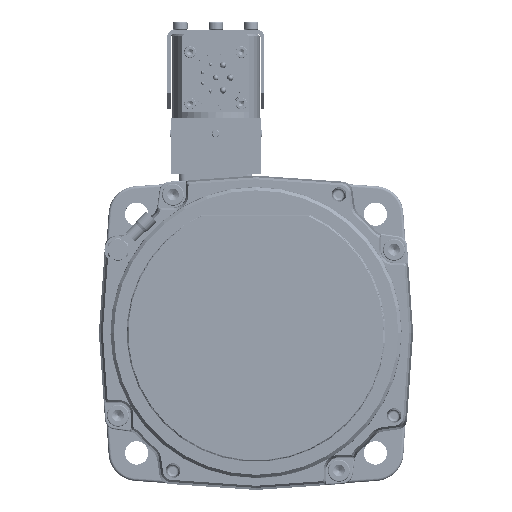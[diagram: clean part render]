
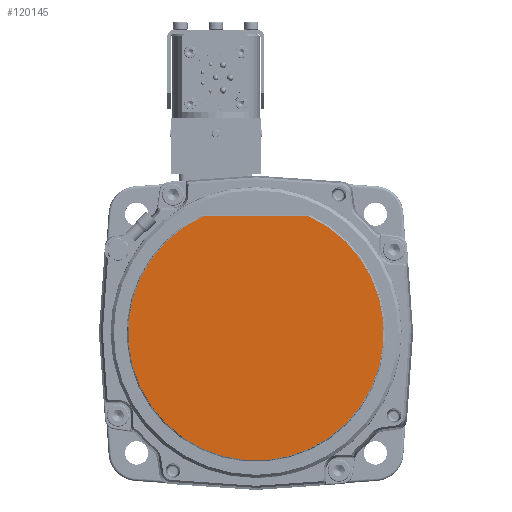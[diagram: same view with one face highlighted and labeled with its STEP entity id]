
A CAD part, top view. The second image highlights one B-rep face of the part: STEP entity #120145.
In plain terms, the highlighted planar face has unit normal (0, 0, 1).
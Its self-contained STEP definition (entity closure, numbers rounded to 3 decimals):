
#111646=CARTESIAN_POINT('',(0.,0.,63.9));
#111647=DIRECTION('',(0.,0.,-1.));
#111648=DIRECTION('',(0.418,0.908,0.));
#111649=AXIS2_PLACEMENT_3D('',#111646,#111647,#111648);
#111658=DIRECTION('',(-1.,0.,0.));
#111659=VECTOR('',#111658,41.125);
#111660=CARTESIAN_POINT('',(20.562,44.7,63.9));
#111661=LINE('',#111660,#111659);
#112336=CARTESIAN_POINT('',(20.562,44.7,63.9));
#112337=CARTESIAN_POINT('',(-20.562,44.7,63.9));
#112338=VERTEX_POINT('',#112336);
#112339=VERTEX_POINT('',#112337);
#120136=CARTESIAN_POINT('',(0.,0.,63.9));
#120137=DIRECTION('',(0.,0.,1.));
#120138=DIRECTION('',(1.,0.,0.));
#120139=AXIS2_PLACEMENT_3D('',#120136,#120137,#120138);
#120140=PLANE('',#120139);
#120141=ORIENTED_EDGE('',*,*,#120115,.T.);
#120142=ORIENTED_EDGE('',*,*,#120127,.F.);
#120143=EDGE_LOOP('',(#120141,#120142));
#120144=FACE_OUTER_BOUND('',#120143,.F.);
#120145=ADVANCED_FACE('',(#120144),#120140,.T.);
#111650=CIRCLE('',#111649,49.203);
#120115=EDGE_CURVE('',#112338,#112339,#111650,.T.);
#120127=EDGE_CURVE('',#112338,#112339,#111661,.T.);
